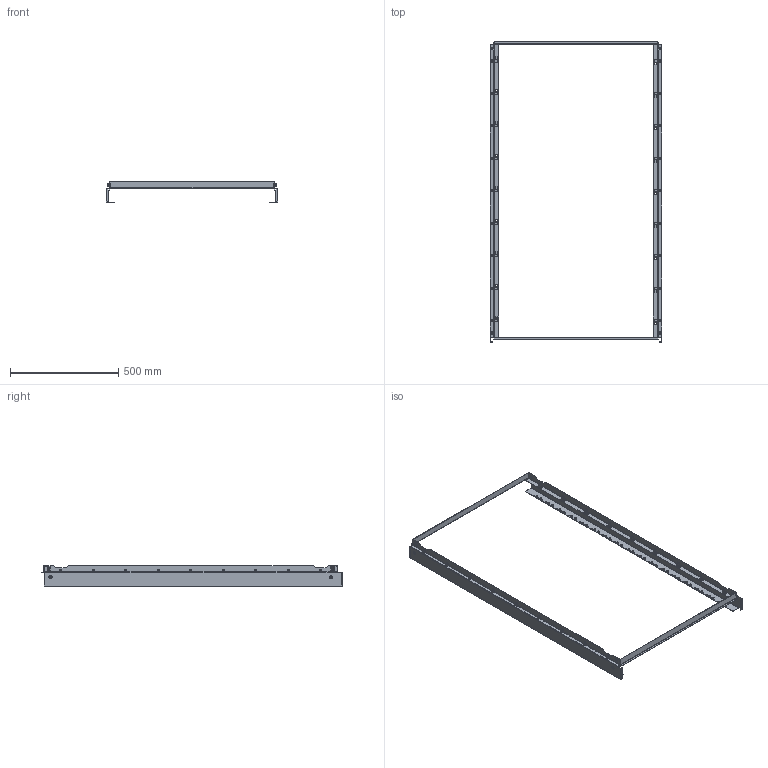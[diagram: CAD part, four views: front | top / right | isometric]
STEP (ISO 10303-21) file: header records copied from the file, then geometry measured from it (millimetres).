
FILE_DESCRIPTION (( 'STEP AP203' ), '1' );
FILE_NAME ('R5STMF148.STEP', '2022-04-13T09:41:31', ( '' ), ( '' ), 'SwSTEP 2.0', 'SolidWorks 2020', '' );
FILE_SCHEMA (( 'CONFIG_CONTROL_DESIGN' ));
Length unit declared in the file: millimetre
Products named in the file (11): M6 A3400002 Zinc_straight; M6 DIN 6923 cl.8,0 Zinc_straight; R5STMF148; RB.2136.00.00.0_-04; RB.2135.00.01.0_-07; RB.2135.00.00.0 捘_-07; RB.2134.00.00.0_-07; M6x12 DIN 965 PH cl.4,8 Zinc_stright; RB.2134.00.00.0_-15; M4x8 DIN 965 PH cl.4,8 Zinc_straight; M4 MGR-MKO-0420_straight
Assembly tree (46 placements, depth 3):
  R5STMF148
    RB.2134.00.00.0_-07
    RB.2135.00.00.0 捘_-07  x2
      RB.2135.00.01.0_-07
      M4 MGR-MKO-0420_straight
    RB.2136.00.00.0_-04  x2
    RB.2134.00.00.0_-15
    M6 A3400002 Zinc_straight  x4
    M6x12 DIN 965 PH cl.4,8 Zinc_stright  x4
    M4x8 DIN 965 PH cl.4,8 Zinc_straight  x18
    M6 DIN 6923 cl.8,0 Zinc_straight  x4
Bounding box: 793.6 x 1386.4 x 96.67 mm (x, y, z)
Volume: 826590.3 mm3; surface area: 1140926 mm2
Topology: 54 solids, 54 shells, 3440 faces, 9038 edges, 5654 vertices
Faces by surface type: plane 1704, cylinder 1264, cone 356, bspline 64, torus 52
Entity records: 53767 total; most frequent: CARTESIAN_POINT 9453, DIRECTION 8960, ORIENTED_EDGE 8712, EDGE_CURVE 4356, AXIS2_PLACEMENT_3D 3117, VERTEX_POINT 2764, VECTOR 2726, LINE 2726
